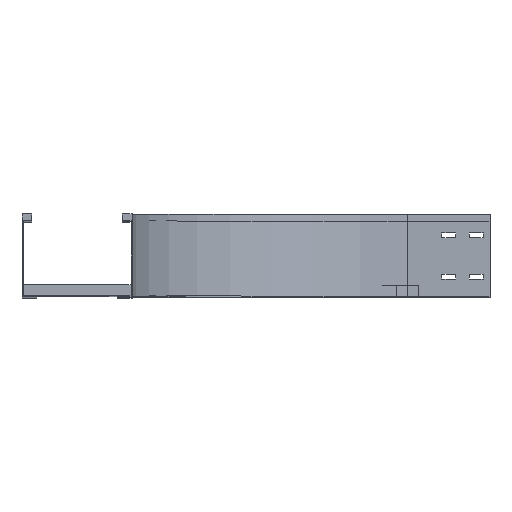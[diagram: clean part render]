
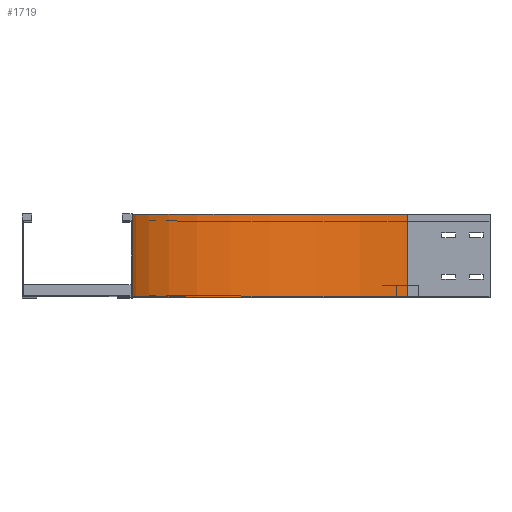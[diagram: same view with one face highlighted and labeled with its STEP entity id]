
A CAD part, top view. The second image highlights one B-rep face of the part: STEP entity #1719.
In plain terms, the highlighted cylindrical face has radius 500 mm (diameter 1000 mm), a partial arc.
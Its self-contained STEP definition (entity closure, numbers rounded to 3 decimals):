
#17 = ORIENTED_EDGE ( 'NONE', *, *, #486, .T. ) ;
#27 = EDGE_CURVE ( 'NONE', #1500, #3559, #3180, .T. ) ;
#486 = EDGE_CURVE ( 'NONE', #491, #1500, #2364, .T. ) ;
#491 = VERTEX_POINT ( 'NONE', #677 ) ;
#677 = CARTESIAN_POINT ( 'NONE',  ( 0., 0., -150. ) ) ;
#730 = AXIS2_PLACEMENT_3D ( 'NONE', #930, #955, #1578 ) ;
#781 = CARTESIAN_POINT ( 'NONE',  ( 500., 0., -650. ) ) ;
#786 = DIRECTION ( 'NONE',  ( -1., 0., 0. ) ) ;
#848 = DIRECTION ( 'NONE',  ( 0., 1., 0. ) ) ;
#930 = CARTESIAN_POINT ( 'NONE',  ( 500., 0., -150. ) ) ;
#942 = ORIENTED_EDGE ( 'NONE', *, *, #2838, .F. ) ;
#955 = DIRECTION ( 'NONE',  ( 0., -1., 0. ) ) ;
#1065 = AXIS2_PLACEMENT_3D ( 'NONE', #2256, #3885, #3236 ) ;
#1247 = ORIENTED_EDGE ( 'NONE', *, *, #3608, .F. ) ;
#1332 = CARTESIAN_POINT ( 'NONE',  ( 500., 150., -650. ) ) ;
#1407 = ORIENTED_EDGE ( 'NONE', *, *, #27, .T. ) ;
#1500 = VERTEX_POINT ( 'NONE', #3291 ) ;
#1578 = DIRECTION ( 'NONE',  ( 0., 0., -1. ) ) ;
#1719 = ADVANCED_FACE ( 'NONE', ( #2204 ), #3550, .F. ) ;
#1792 = DIRECTION ( 'NONE',  ( 0., 1., 0. ) ) ;
#1818 = CARTESIAN_POINT ( 'NONE',  ( 500., 150., -150. ) ) ;
#2024 = VECTOR ( 'NONE', #848, 1000. ) ;
#2049 = CIRCLE ( 'NONE', #3221, 500. ) ;
#2204 = FACE_OUTER_BOUND ( 'NONE', #2274, .T. ) ;
#2256 = CARTESIAN_POINT ( 'NONE',  ( 500., 0., -150. ) ) ;
#2274 = EDGE_LOOP ( 'NONE', ( #942, #1247, #17, #1407 ) ) ;
#2364 = CIRCLE ( 'NONE', #1065, 500. ) ;
#2456 = CARTESIAN_POINT ( 'NONE',  ( 0., 0., -150. ) ) ;
#2473 = VERTEX_POINT ( 'NONE', #2830 ) ;
#2830 = CARTESIAN_POINT ( 'NONE',  ( 0., 150., -150. ) ) ;
#2838 = EDGE_CURVE ( 'NONE', #2473, #3559, #2049, .T. ) ;
#3063 = LINE ( 'NONE', #2456, #4183 ) ;
#3102 = DIRECTION ( 'NONE',  ( 0., -1., 0. ) ) ;
#3180 = LINE ( 'NONE', #781, #2024 ) ;
#3221 = AXIS2_PLACEMENT_3D ( 'NONE', #1818, #3102, #786 ) ;
#3236 = DIRECTION ( 'NONE',  ( -1., 0., 0. ) ) ;
#3291 = CARTESIAN_POINT ( 'NONE',  ( 500., 0., -650. ) ) ;
#3550 = CYLINDRICAL_SURFACE ( 'NONE', #730, 500. ) ;
#3559 = VERTEX_POINT ( 'NONE', #1332 ) ;
#3608 = EDGE_CURVE ( 'NONE', #491, #2473, #3063, .T. ) ;
#3885 = DIRECTION ( 'NONE',  ( 0., -1., 0. ) ) ;
#4183 = VECTOR ( 'NONE', #1792, 1000. ) ;
